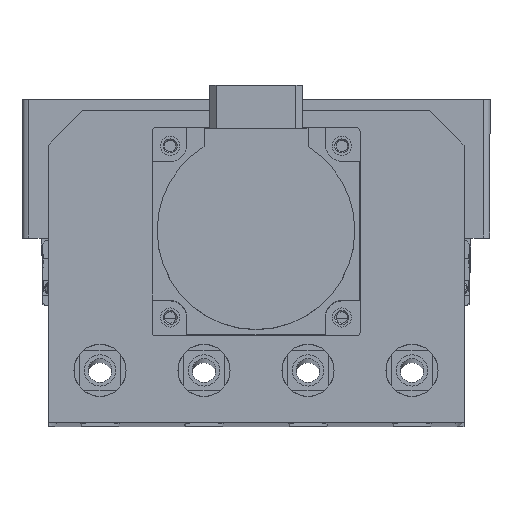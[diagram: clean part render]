
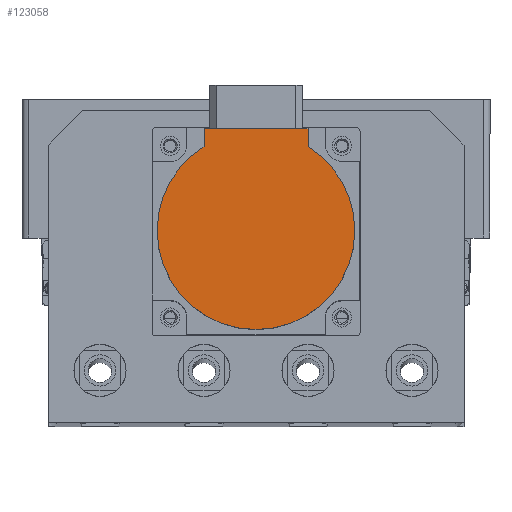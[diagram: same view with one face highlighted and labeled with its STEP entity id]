
A CAD part, top view. The second image highlights one B-rep face of the part: STEP entity #123058.
In plain terms, the highlighted planar face has unit normal (0, 0, 1) as drawn and (0, 0, -1) by its records, which use the part's own axes.
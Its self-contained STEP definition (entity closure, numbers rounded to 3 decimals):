
#5273 = VECTOR ( 'NONE', #25453, 1000. ) ;
#6156 = CIRCLE ( 'NONE', #114537, 28.5 ) ;
#13362 = CARTESIAN_POINT ( 'NONE',  ( 15., 0., -175. ) ) ;
#16091 = ORIENTED_EDGE ( 'NONE', *, *, #114206, .T. ) ;
#16251 = DIRECTION ( 'NONE',  ( 0., -1., 0. ) ) ;
#18529 = CIRCLE ( 'NONE', #61987, 28.5 ) ;
#25453 = DIRECTION ( 'NONE',  ( -1., 0., 0. ) ) ;
#25676 = DIRECTION ( 'NONE',  ( 0., -1., 0. ) ) ;
#30048 = CARTESIAN_POINT ( 'NONE',  ( 0., 0., -175. ) ) ;
#32084 = VERTEX_POINT ( 'NONE', #88690 ) ;
#35421 = AXIS2_PLACEMENT_3D ( 'NONE', #41358, #127123, #53697 ) ;
#38729 = VERTEX_POINT ( 'NONE', #99468 ) ;
#40890 = CARTESIAN_POINT ( 'NONE',  ( -15., 0., -175. ) ) ;
#41358 = CARTESIAN_POINT ( 'NONE',  ( 0., 0., -175. ) ) ;
#42389 = DIRECTION ( 'NONE',  ( -1., 0., 0. ) ) ;
#44706 = FACE_OUTER_BOUND ( 'NONE', #101393, .T. ) ;
#47105 = EDGE_CURVE ( 'NONE', #61419, #98162, #103147, .T. ) ;
#49547 = AXIS2_PLACEMENT_3D ( 'NONE', #71122, #156858, #83438 ) ;
#53137 = PLANE ( 'NONE',  #35421 ) ;
#53697 = DIRECTION ( 'NONE',  ( -1., 0., 0. ) ) ;
#54290 = CIRCLE ( 'NONE', #49547, 28.5 ) ;
#55355 = EDGE_CURVE ( 'NONE', #38729, #78903, #94327, .T. ) ;
#59437 = EDGE_CURVE ( 'NONE', #32084, #117835, #6156, .T. ) ;
#61419 = VERTEX_POINT ( 'NONE', #124240 ) ;
#61957 = EDGE_CURVE ( 'NONE', #38729, #61419, #103029, .T. ) ;
#61987 = AXIS2_PLACEMENT_3D ( 'NONE', #141943, #68539, #154266 ) ;
#68539 = DIRECTION ( 'NONE',  ( 0., 0., -1. ) ) ;
#70590 = VECTOR ( 'NONE', #16251, 1000. ) ;
#70623 = CARTESIAN_POINT ( 'NONE',  ( -15., 24.233, -175. ) ) ;
#71122 = CARTESIAN_POINT ( 'NONE',  ( 0., 0., -175. ) ) ;
#78903 = VERTEX_POINT ( 'NONE', #127187 ) ;
#83438 = DIRECTION ( 'NONE',  ( -1., 0., 0. ) ) ;
#83550 = ORIENTED_EDGE ( 'NONE', *, *, #47105, .F. ) ;
#88690 = CARTESIAN_POINT ( 'NONE',  ( 28.5, 0., -175. ) ) ;
#90511 = VECTOR ( 'NONE', #25676, 1000. ) ;
#94327 = LINE ( 'NONE', #13362, #90511 ) ;
#98162 = VERTEX_POINT ( 'NONE', #70623 ) ;
#98859 = CARTESIAN_POINT ( 'NONE',  ( 0., 29.45, -175. ) ) ;
#99468 = CARTESIAN_POINT ( 'NONE',  ( 15., 29.45, -175. ) ) ;
#101393 = EDGE_LOOP ( 'NONE', ( #156801, #135059, #16091, #148236, #151040, #83550 ) ) ;
#103029 = LINE ( 'NONE', #98859, #5273 ) ;
#103147 = LINE ( 'NONE', #40890, #70590 ) ;
#114206 = EDGE_CURVE ( 'NONE', #78903, #32084, #18529, .T. ) ;
#114537 = AXIS2_PLACEMENT_3D ( 'NONE', #30048, #115784, #42389 ) ;
#115784 = DIRECTION ( 'NONE',  ( 0., 0., -1. ) ) ;
#117835 = VERTEX_POINT ( 'NONE', #123865 ) ;
#123058 = ADVANCED_FACE ( 'NONE', ( #44706 ), #53137, .T. ) ;
#123865 = CARTESIAN_POINT ( 'NONE',  ( -28.5, 0., -175. ) ) ;
#124240 = CARTESIAN_POINT ( 'NONE',  ( -15., 29.45, -175. ) ) ;
#127123 = DIRECTION ( 'NONE',  ( 0., 0., -1. ) ) ;
#127187 = CARTESIAN_POINT ( 'NONE',  ( 15., 24.233, -175. ) ) ;
#135059 = ORIENTED_EDGE ( 'NONE', *, *, #55355, .T. ) ;
#141943 = CARTESIAN_POINT ( 'NONE',  ( 0., 0., -175. ) ) ;
#142525 = EDGE_CURVE ( 'NONE', #117835, #98162, #54290, .T. ) ;
#148236 = ORIENTED_EDGE ( 'NONE', *, *, #59437, .T. ) ;
#151040 = ORIENTED_EDGE ( 'NONE', *, *, #142525, .T. ) ;
#154266 = DIRECTION ( 'NONE',  ( -1., 0., 0. ) ) ;
#156801 = ORIENTED_EDGE ( 'NONE', *, *, #61957, .F. ) ;
#156858 = DIRECTION ( 'NONE',  ( 0., 0., -1. ) ) ;
